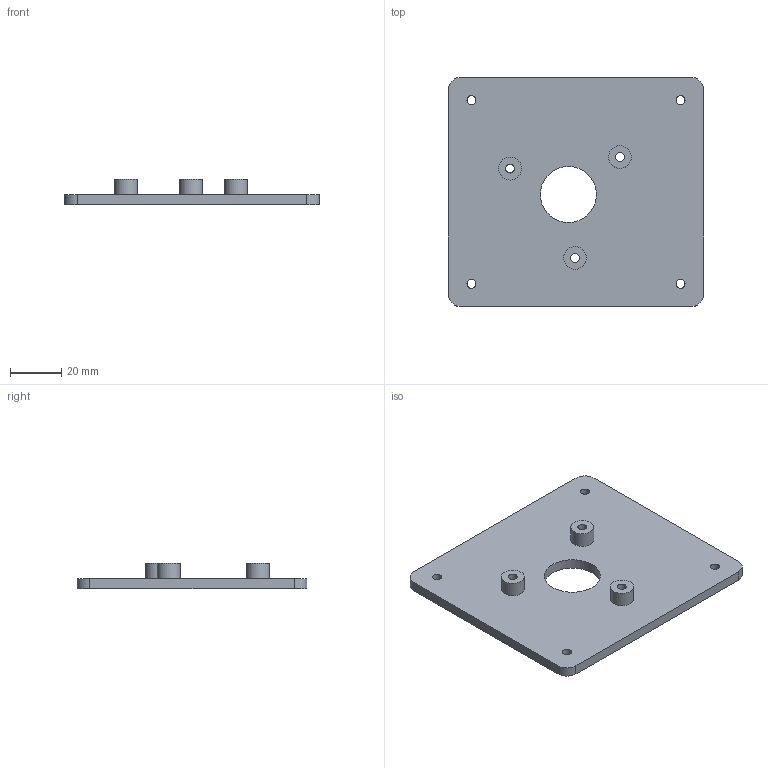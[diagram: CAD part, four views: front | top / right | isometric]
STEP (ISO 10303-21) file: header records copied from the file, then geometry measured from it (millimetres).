
FILE_DESCRIPTION(('FreeCAD Model'),'2;1');
FILE_NAME('Open CASCADE Shape Model','2026-10-19T19:41:49',('FreeCAD'),( 'FreeCAD'),'Open CASCADE STEP processor 7.8','FreeCAD','Unknown');
FILE_SCHEMA(('AUTOMOTIVE_DESIGN { 1 0 10303 214 1 1 1 1 }'));
Length unit declared in the file: millimetre
Products named in the file (1): Open CASCADE STEP translator 7.8 7
Bounding box: 100 x 90 x 10 mm (x, y, z)
Volume: 35096.2 mm3; surface area: 19839 mm2
Topology: 1 solids, 1 shells, 24 faces, 57 edges, 38 vertices
Faces by surface type: cylinder 15, plane 9
Full cylindrical faces by diameter (mm): 3.5 x7, 9 x3, 22 x1
Entity records: 750 total; most frequent: DIRECTION 134, CARTESIAN_POINT 123, ORIENTED_EDGE 114, EDGE_CURVE 57, AXIS2_PLACEMENT_3D 55, FACE_BOUND 43, EDGE_LOOP 43, VERTEX_POINT 38
